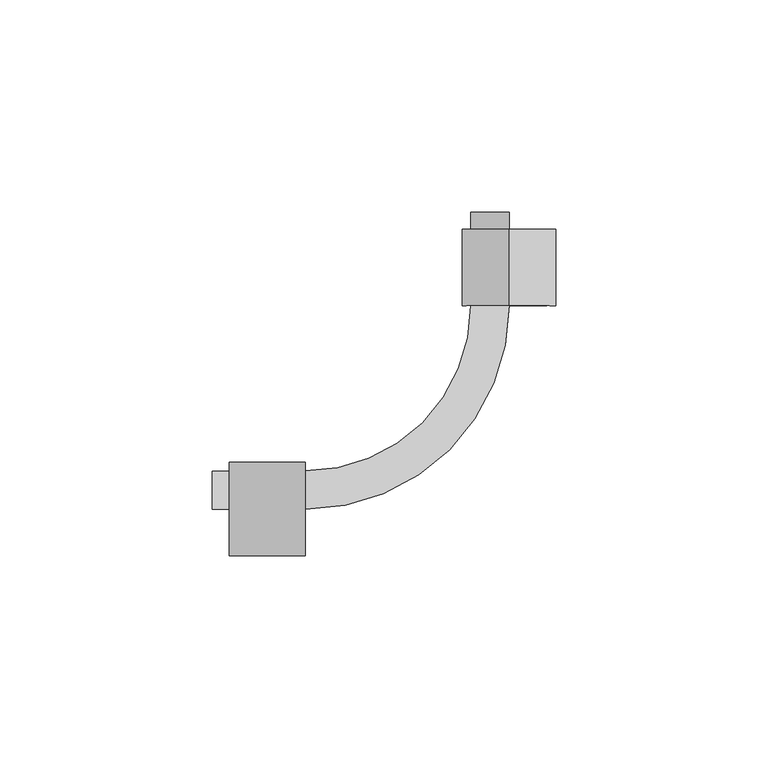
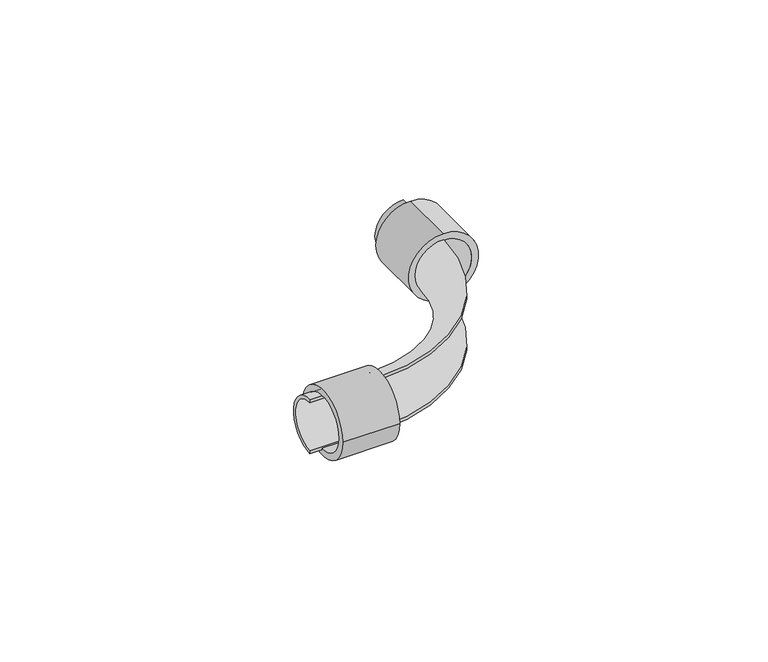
"""IFC4 building model written with IfcOpenShell, lengths in millimetres: pipe fitting geometry, REHAU_RAUTITAN_Pipe bend former sanitary : REHAU_RAUTITAN_Pipe bend former sanitary."""

from ifc_helpers import new_model, si_unit, point, frame, frame_2d, origin, origin_2d, place, context, project, spatial, polyline, circle_curve, ellipse_curve, trimmed, segment, composite_curve, outline, extrude, source, transform, mapped, element, save
from ifc_brep_helpers import plane_surface, cylinder_surface, revolved_surface, advanced_brep


def pipe_fitting_906cb7a9(model_context):
    return source(origin(), model_context, "Body", "SolidModel", [
        advanced_brep(
        [(-48.0, 0.0, 9.0), (-48.0, 0.0, -9.0), (-48.0, 0.0, -8.0), (-48.0, 0.0, 8.0), (0.0, 48.0, 9.0), (0.0, 48.0, 8.0), (0.0, 48.0, -8.0), (0.0, 48.0, -9.0)],
        [
            (0, 1, circle_curve(frame((-48.0, 0.0, 0.0), z_axis=(-1.0, 0.0, 0.0), x_axis=(0.0, 1.0, 0.0)), 9.0)),
            (1, 2),
            (2, 3, circle_curve(frame((-48.0, 0.0, 0.0), z_axis=(1.0, 0.0, 0.0), x_axis=(0.0, 1.0, 0.0)), 8.0)),
            (3, 0),
            (4, 5),
            (5, 6, circle_curve(frame((0.0, 48.0, 0.0), z_axis=(0.0, -1.0, 0.0), x_axis=(-1.0, 0.0, 0.0)), 8.0)),
            (6, 7),
            (7, 4, circle_curve(frame((0.0, 48.0, 0.0), z_axis=(0.0, 1.0, 0.0), x_axis=(-1.0, 0.0, 0.0)), 9.0)),
            (4, 0, circle_curve(frame((-48.0, 48.0, 9.0), z_axis=(0.0, 0.0, -1.0), x_axis=(0.0, -1.0, 0.0)), 48.0)),
            (3, 5, circle_curve(frame((-48.0, 48.0, 8.0), z_axis=(0.0, 0.0, 1.0), x_axis=(0.0, -1.0, 0.0)), 48.0)),
            (6, 2, circle_curve(frame((-48.0, 48.0, -8.0), z_axis=(0.0, 0.0, -1.0), x_axis=(0.0, -1.0, 0.0)), 48.0)),
            (1, 7, circle_curve(frame((-48.0, 48.0, -9.0), z_axis=(0.0, 0.0, 1.0), x_axis=(0.0, -1.0, 0.0)), 48.0)),
        ],
        [
            plane_surface(frame((-48.0, 0.0, 0.0), z_axis=(-1.0, 0.0, 0.0), x_axis=(0.0, 0.0, 1.0))),
            plane_surface(frame((0.0, 48.0, 0.0), z_axis=(0.0, 1.0, 0.0), x_axis=(0.0, 0.0, 1.0))),
            cylinder_surface(frame((-48.0, 48.0, 0.0), z_axis=(0.0, 0.0, 1.0), x_axis=(0.0, -1.0, 0.0)), 48.0),
            revolved_surface(trimmed(ellipse_curve(frame((-48.0, 0.0, 0.0), z_axis=(-1.0, 0.0, 0.0), x_axis=(0.0, 1.0, 0.0)), 9.0, 9.0), [point((-48.0, 0.0, 9.0))], [point((-48.0, 0.0, -9.0))], True, "CARTESIAN"), (-48.0, 48.0, 0.0), (0.0, 0.0, 1.0)),
            revolved_surface(trimmed(ellipse_curve(frame((-48.0, 0.0, 0.0), z_axis=(1.0, 0.0, 0.0), x_axis=(0.0, 1.0, 0.0)), 8.0, 8.0), [point((-48.0, 0.0, -8.0))], [point((-48.0, 0.0, 8.0))], True, "CARTESIAN"), (-48.0, 48.0, 0.0), (0.0, 0.0, 1.0)),
        ],
        [
            (0, [[1, 2, 3, 4]]),
            (1, [[5, 6, 7, 8]]),
            (2, [[9, -4, 10, -5]]),
            (2, [[11, -2, 12, -7]]),
            (3, [[-12, -1, -9, -8]]),
            (4, [[-10, -3, -11, -6]]),
        ],
    ),
        extrude(outline(composite_curve([segment(trimmed(circle_curve(origin_2d(), 11.0), [point((11.0, 0.0))], [point((-11.0, 0.0))], False, "CARTESIAN"), True, "CONTINUOUS"), segment(trimmed(circle_curve(origin_2d(), 11.0), [point((-11.0, 0.0))], [point((11.0, 0.0))], False, "CARTESIAN"), True, "CONTINUOUS")], self_intersect=False), holes=[composite_curve([segment(trimmed(circle_curve(origin_2d(), 8.85), [point((8.85, 0.0))], [point((-8.85, 0.0))], True, "CARTESIAN"), True, "CONTINUOUS"), segment(trimmed(circle_curve(origin_2d(), 8.85), [point((-8.85, 0.0))], [point((8.85, 0.0))], True, "CARTESIAN"), True, "CONTINUOUS")], self_intersect=False)]), frame((-66.0, 0.0, 0.0), z_axis=(1.0, 0.0, 0.0), x_axis=(0.0, 1.0, 0.0)), (0.0, 0.0, 1.0), 18.0),
        extrude(outline(composite_curve([segment(trimmed(circle_curve(origin_2d(), 11.0), [point((-11.0, 0.0))], [point((11.0, 0.0))], False, "CARTESIAN"), True, "CONTINUOUS"), segment(trimmed(circle_curve(origin_2d(), 11.0), [point((11.0, 0.0))], [point((-11.0, 0.0))], False, "CARTESIAN"), True, "CONTINUOUS")], self_intersect=False), holes=[composite_curve([segment(trimmed(circle_curve(origin_2d(), 8.85), [point((-8.85, 0.0))], [point((8.85, 0.0))], True, "CARTESIAN"), True, "CONTINUOUS"), segment(trimmed(circle_curve(origin_2d(), 8.85), [point((8.85, 0.0))], [point((-8.85, 0.0))], True, "CARTESIAN"), True, "CONTINUOUS")], self_intersect=False)]), frame((0.0, 48.0, 0.0), z_axis=(0.0, 1.0, 0.0), x_axis=(0.0, 0.0, 1.0)), (0.0, 0.0, 1.0), 18.0),
        extrude(outline(composite_curve([segment(polyline([(0.0, 8.0), (0.0, 9.0)]), True, "CONTINUOUS"), segment(trimmed(circle_curve(origin_2d(), 9.0), [point((0.0, 9.0))], [point((0.0, -9.0))], False, "CARTESIAN"), True, "CONTINUOUS"), segment(polyline([(0.0, -9.0), (0.0, -8.0)]), True, "CONTINUOUS"), segment(trimmed(circle_curve(origin_2d(), 8.0), [point((0.0, -8.0))], [point((0.0, 8.0))], True, "CARTESIAN"), True, "CONTINUOUS")], self_intersect=False)), frame((-70.0, 0.0, 0.0), z_axis=(1.0, 0.0, 0.0), x_axis=(0.0, 1.0, 0.0)), (0.0, 0.0, 1.0), 22.0),
        extrude(outline(composite_curve([segment(polyline([(8.0015807, 0.0), (9.0015807, 0.0)]), True, "CONTINUOUS"), segment(trimmed(circle_curve(frame_2d((0.0015807, 0.0)), 9.0), [point((9.0015807, 0.0))], [point((-8.9984193, 0.0))], False, "CARTESIAN"), True, "CONTINUOUS"), segment(polyline([(-8.9984193, 0.0), (-7.9984193, 0.0)]), True, "CONTINUOUS"), segment(trimmed(circle_curve(frame_2d((0.0015807, 0.0)), 8.0), [point((-7.9984193, 0.0))], [point((8.0015807, 0.0))], True, "CARTESIAN"), True, "CONTINUOUS")], self_intersect=False)), frame((0.0, 48.0, 0.0), z_axis=(0.0, 1.0, 0.0), x_axis=(0.0, 0.0, 1.0)), (0.0, 0.0, 1.0), 22.0),
    ])


if __name__ == "__main__":
    model = new_model("IFC4")
    model_context = context("Model", 3, world=origin())
    ifc_project = project(units=[si_unit("LENGTHUNIT", "METRE", prefix="MILLI")], contexts=[model_context])
    site = spatial("IfcSite", under=ifc_project)
    building = spatial("IfcBuilding", under=site)
    placement = place(None, origin())
    pipe_fitting_shape = pipe_fitting_906cb7a9(model_context)
    element("IfcPipeFitting", 1, ObjectType="REHAU_RAUTITAN_Pipe bend former sanitary : REHAU_RAUTITAN_Pipe bend former sanitary", at=placement, inside=building, context=model_context, shape_type="MappedRepresentation", body=[
        mapped(pipe_fitting_shape, transform((0.0, 0.0, 0.0), x_axis=(1.0, 0.0, 0.0), y_axis=(0.0, 1.0, 0.0), z_axis=(0.0, 0.0, 1.0))),
    ])
    save(model, "model.ifc")
